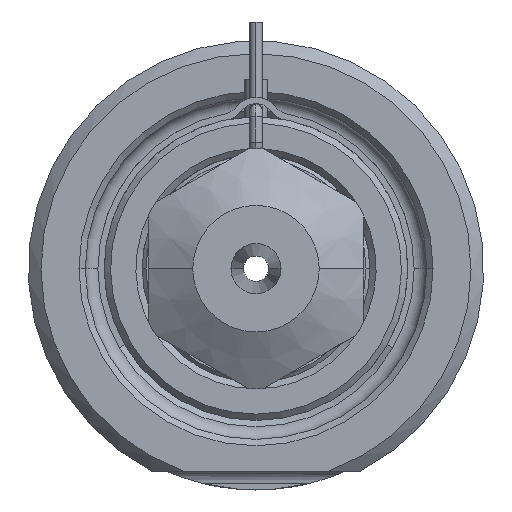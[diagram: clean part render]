
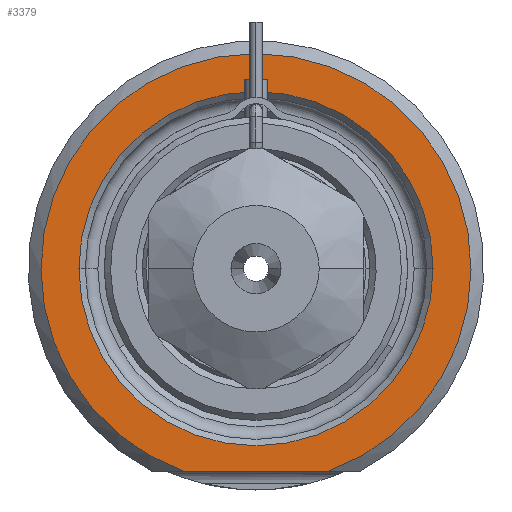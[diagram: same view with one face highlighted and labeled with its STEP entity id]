
A CAD part, front view. The second image highlights one B-rep face of the part: STEP entity #3379.
In plain terms, the highlighted planar face has unit normal (0, -1, 0).
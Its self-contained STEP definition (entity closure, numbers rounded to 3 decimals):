
#690=DIRECTION('',(1.,0.,0.));
#691=VECTOR('',#690,11.489);
#692=CARTESIAN_POINT('',(-5.745,0.,-16.));
#693=LINE('',#692,#691);
#694=CARTESIAN_POINT('',(0.,0.,0.));
#695=DIRECTION('',(0.,1.,0.));
#696=DIRECTION('',(-1.,0.,0.));
#697=AXIS2_PLACEMENT_3D('',#694,#695,#696);
#699=CARTESIAN_POINT('',(0.,0.,0.));
#700=DIRECTION('',(0.,1.,0.));
#701=DIRECTION('',(1.,0.,0.));
#702=AXIS2_PLACEMENT_3D('',#699,#700,#701);
#806=CARTESIAN_POINT('',(0.,0.,0.));
#807=DIRECTION('',(0.,-1.,0.));
#808=DIRECTION('',(0.338,0.,-0.941));
#809=AXIS2_PLACEMENT_3D('',#806,#807,#808);
#2164=CARTESIAN_POINT('',(-14.,0.,0.));
#2165=CARTESIAN_POINT('',(14.,0.,0.));
#2166=VERTEX_POINT('',#2164);
#2167=VERTEX_POINT('',#2165);
#2214=CARTESIAN_POINT('',(-5.745,0.,-16.));
#2215=CARTESIAN_POINT('',(5.745,0.,-16.));
#2216=VERTEX_POINT('',#2214);
#2217=VERTEX_POINT('',#2215);
#3363=CARTESIAN_POINT('',(0.,0.,0.));
#3364=DIRECTION('',(0.,-1.,0.));
#3365=DIRECTION('',(1.,0.,0.));
#3366=AXIS2_PLACEMENT_3D('',#3363,#3364,#3365);
#3367=PLANE('',#3366);
#3369=ORIENTED_EDGE('',*,*,#3368,.F.);
#3371=ORIENTED_EDGE('',*,*,#3370,.F.);
#3372=EDGE_LOOP('',(#3369,#3371));
#3373=FACE_OUTER_BOUND('',#3372,.F.);
#3375=ORIENTED_EDGE('',*,*,#3374,.F.);
#3376=ORIENTED_EDGE('',*,*,#3353,.F.);
#3377=EDGE_LOOP('',(#3375,#3376));
#3378=FACE_BOUND('',#3377,.F.);
#3379=ADVANCED_FACE('',(#3373,#3378),#3367,.T.);
#698=CIRCLE('',#697,14.);
#703=CIRCLE('',#702,14.);
#810=CIRCLE('',#809,17.);
#3353=EDGE_CURVE('',#2167,#2166,#703,.T.);
#3368=EDGE_CURVE('',#2216,#2217,#693,.T.);
#3370=EDGE_CURVE('',#2217,#2216,#810,.T.);
#3374=EDGE_CURVE('',#2166,#2167,#698,.T.);
